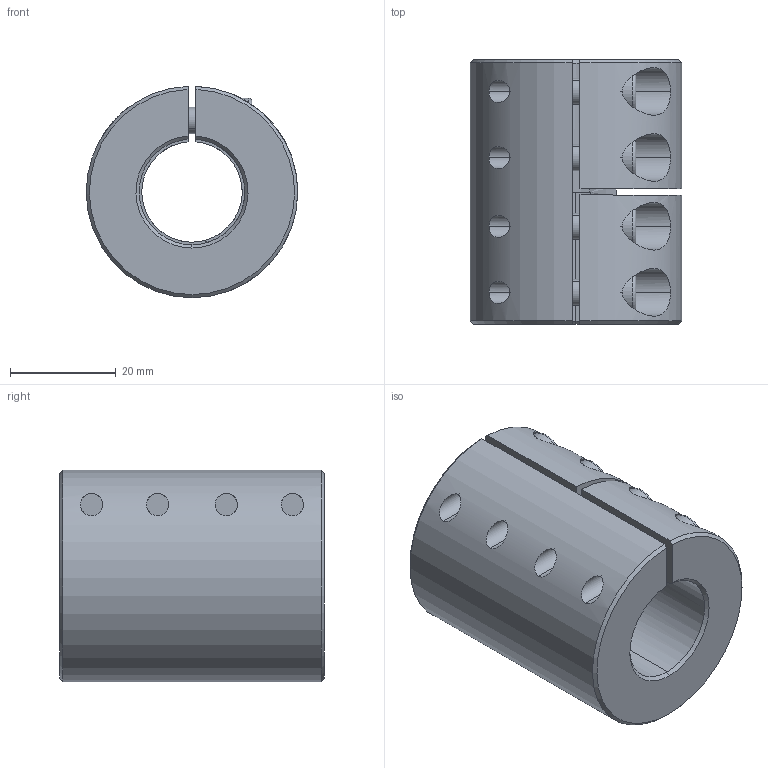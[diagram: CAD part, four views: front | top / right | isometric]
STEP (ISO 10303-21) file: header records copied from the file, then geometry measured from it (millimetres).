
FILE_DESCRIPTION (( 'STEP AP214' ), '1' );
FILE_NAME ('LL-B-D40L50-19-20½¨Ä£.STEP', '2022-07-22T00:28:46', ( '' ), ( '' ), 'SwSTEP 2.0', 'SolidWorks 2022', '' );
FILE_SCHEMA (( 'AUTOMOTIVE_DESIGN' ));
Length unit declared in the file: millimetre
Products named in the file (1): LL-B-D40L50-19-20膘耀
Bounding box: 40 x 50 x 39.99 mm (x, y, z)
Volume: 45133.2 mm3; surface area: 15406.6 mm2
Topology: 1 solids, 1 shells, 176 faces, 444 edges, 278 vertices
Faces by surface type: plane 84, cylinder 70, cone 14, torus 8
Entity records: 5801 total; most frequent: CARTESIAN_POINT 1475, DIRECTION 941, ORIENTED_EDGE 872, EDGE_CURVE 436, AXIS2_PLACEMENT_3D 368, VERTEX_POINT 278, EDGE_LOOP 208, LINE 205
